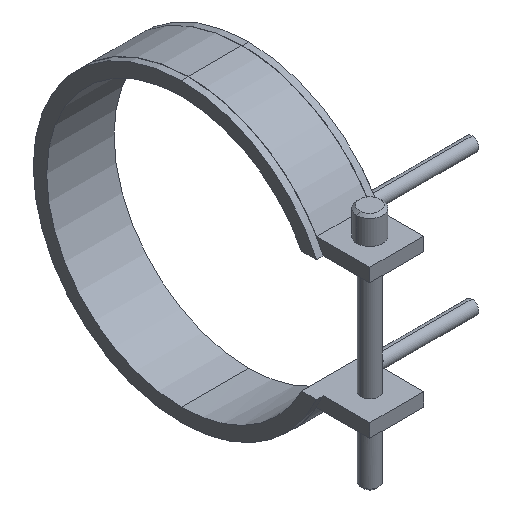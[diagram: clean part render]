
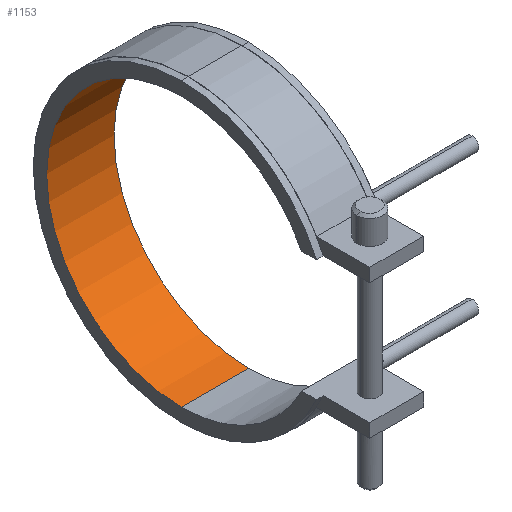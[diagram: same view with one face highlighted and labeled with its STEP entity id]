
A CAD part, isometric view. The second image highlights one B-rep face of the part: STEP entity #1153.
In plain terms, the highlighted cylindrical face has radius 40 mm (diameter 80 mm), a partial arc.
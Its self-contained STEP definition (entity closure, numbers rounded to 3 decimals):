
#834=CARTESIAN_POINT('Vertex',(-10.,0.,-40.)) ;
#841=CARTESIAN_POINT('Vertex',(10.,0.,-40.)) ;
#844=CARTESIAN_POINT('Line Origine',(10.,0.,-40.)) ;
#862=CARTESIAN_POINT('Axis2P3D Location',(-10.,0.,0.)) ;
#866=CARTESIAN_POINT('Vertex',(-10.,0.,40.)) ;
#923=CARTESIAN_POINT('Vertex',(10.,0.,40.)) ;
#933=CARTESIAN_POINT('Line Origine',(10.,0.,40.)) ;
#1024=CARTESIAN_POINT('Axis2P3D Location',(10.,0.,0.)) ;
#1142=CARTESIAN_POINT('Axis2P3D Location',(10.,0.,0.)) ;
#845=DIRECTION('Vector Direction',(1.,0.,0.)) ;
#863=DIRECTION('Axis2P3D Direction',(1.,0.,0.)) ;
#934=DIRECTION('Vector Direction',(1.,0.,0.)) ;
#1025=DIRECTION('Axis2P3D Direction',(1.,0.,0.)) ;
#1143=DIRECTION('Axis2P3D Direction',(1.,0.,-0.)) ;
#1144=DIRECTION('Axis2P3D XDirection',(0.,0.,-1.)) ;
#864=AXIS2_PLACEMENT_3D('Circle Axis2P3D',#862,#863,$) ;
#1026=AXIS2_PLACEMENT_3D('Circle Axis2P3D',#1024,#1025,$) ;
#1145=AXIS2_PLACEMENT_3D('Cylinder Axis2P3D',#1142,#1143,#1144) ;
#1148=ORIENTED_EDGE('',*,*,#1028,.T.) ;
#1149=ORIENTED_EDGE('',*,*,#937,.T.) ;
#1150=ORIENTED_EDGE('',*,*,#868,.F.) ;
#1151=ORIENTED_EDGE('',*,*,#848,.T.) ;
#846=VECTOR('Line Direction',#845,1.) ;
#935=VECTOR('Line Direction',#934,1.) ;
#1153=ADVANCED_FACE('14080020',(#1152),#1146,.F.) ;
#865=CIRCLE('generated circle',#864,40.) ;
#1027=CIRCLE('generated circle',#1026,40.) ;
#1146=CYLINDRICAL_SURFACE('generated cylinder',#1145,40.) ;
#848=EDGE_CURVE('',#835,#842,#847,.T.) ;
#868=EDGE_CURVE('',#835,#867,#865,.T.) ;
#937=EDGE_CURVE('',#924,#867,#936,.F.) ;
#1028=EDGE_CURVE('',#842,#924,#1027,.T.) ;
#1147=EDGE_LOOP('',(#1148,#1149,#1150,#1151)) ;
#1152=FACE_OUTER_BOUND('',#1147,.T.) ;
#847=LINE('Line',#844,#846) ;
#936=LINE('Line',#933,#935) ;
#835=VERTEX_POINT('',#834) ;
#842=VERTEX_POINT('',#841) ;
#867=VERTEX_POINT('',#866) ;
#924=VERTEX_POINT('',#923) ;
